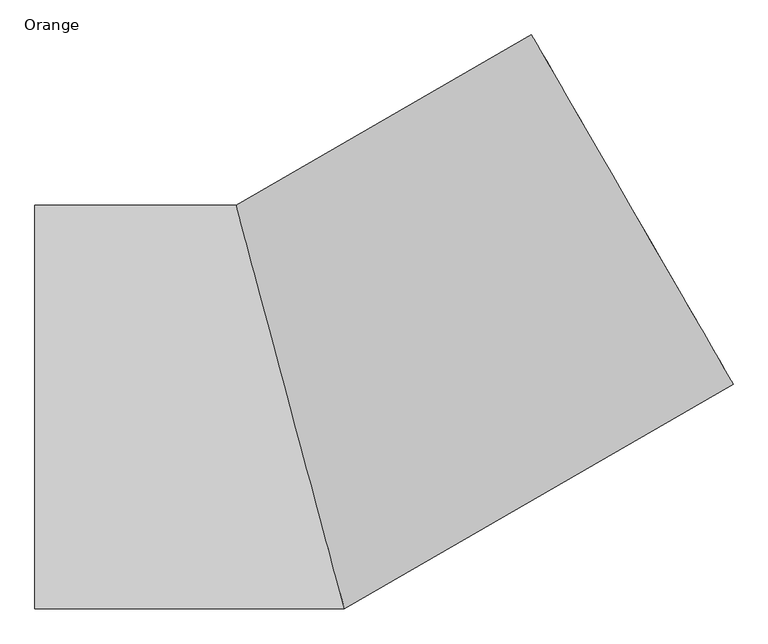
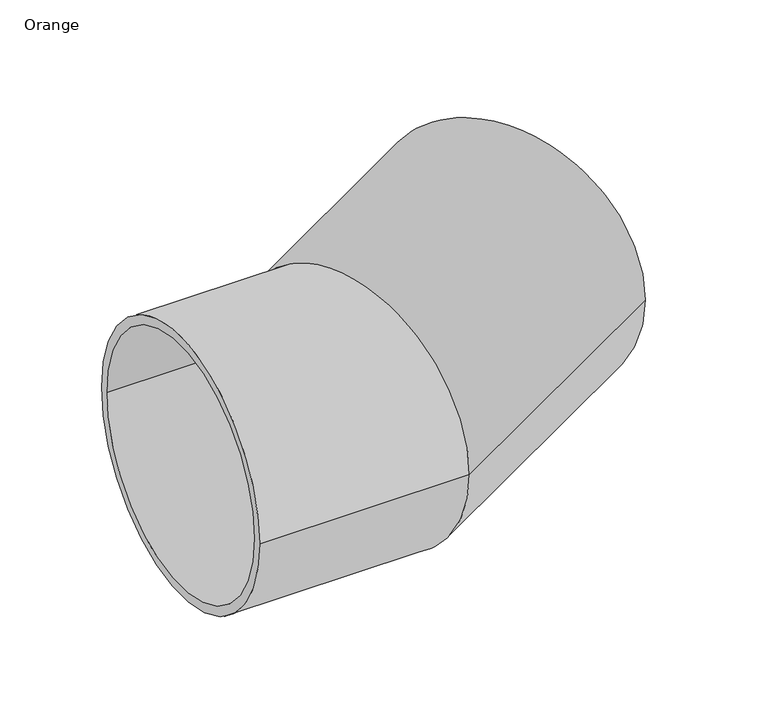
"""IFC4 building model written with IfcOpenShell, lengths in millimetres: pipe fitting geometry, AWADUKT PP SN10 SBend : Orange."""

from ifc_helpers import new_model, si_unit, frame, origin, place, context, project, spatial, polyline, circle_curve, ellipse_curve, source, transform, mapped, element, save
from ifc_brep_helpers import plane_surface, cylinder_surface, revolved_surface, advanced_brep


def orange_f85f7f18(model_context):
    return source(origin(), model_context, "Body", "AdvancedBrep", [
        advanced_brep(
        [(376.8376741, 581.2980022, 0.0), (691.8376741, 35.7019978, 0.0), (387.6376741, 562.5918535, 0.0), (681.0376741, 54.4081465, 0.0), (-78.6162931, 293.4, 0.0), (78.6162931, -293.4, 0.0), (-84.4039956, 315.0, 0.0), (84.4039956, -315.0, 0.0), (-399.0, 315.0, 0.0), (-399.0, -315.0, 0.0), (-399.0, 293.4, 0.0), (-399.0, -293.4, 0.0)],
        [
            (0, 1, circle_curve(frame((534.3376741, 308.5, 0.0), z_axis=(0.866025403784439, 0.49999999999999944, 0.0), x_axis=(0.49999999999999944, -0.866025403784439, 0.0)), 315.0)),
            (1, 0, circle_curve(frame((534.3376741, 308.5, 0.0), z_axis=(0.866025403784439, 0.49999999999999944, 0.0), x_axis=(0.49999999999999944, -0.866025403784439, 0.0)), 315.0)),
            (2, 3, circle_curve(frame((534.3376741, 308.5, 0.0), z_axis=(-0.866025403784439, -0.49999999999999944, 0.0), x_axis=(0.49999999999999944, -0.866025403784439, 0.0)), 293.4)),
            (3, 2, circle_curve(frame((534.3376741, 308.5, 0.0), z_axis=(-0.866025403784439, -0.49999999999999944, 0.0), x_axis=(0.49999999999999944, -0.866025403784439, 0.0)), 293.4)),
            (2, 4),
            (4, 5, ellipse_curve(frame((0.0, 0.0, 0.0), z_axis=(-0.9659258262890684, -0.25881904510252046, 0.0), x_axis=(0.25881904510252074, -0.9659258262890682, 0.0)), 303.7500313, 293.4)),
            (5, 3),
            (5, 4, ellipse_curve(frame((0.0, 0.0, 0.0), z_axis=(-0.9659258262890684, -0.25881904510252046, 0.0), x_axis=(0.25881904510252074, -0.9659258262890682, 0.0)), 303.7500313, 293.4)),
            (0, 6),
            (6, 7, ellipse_curve(frame((0.0, 0.0, 0.0), z_axis=(0.9659258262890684, 0.25881904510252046, 0.0), x_axis=(-0.25881904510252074, 0.9659258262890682, 0.0)), 326.1119968, 315.0)),
            (7, 1),
            (7, 6, ellipse_curve(frame((0.0, 0.0, 0.0), z_axis=(0.9659258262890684, 0.25881904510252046, 0.0), x_axis=(-0.25881904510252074, 0.9659258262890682, 0.0)), 326.1119968, 315.0)),
            (8, 9, circle_curve(frame((-399.0, 0.0, 0.0), z_axis=(-1.0, 0.0, 0.0), x_axis=(0.0, -1.0, 0.0)), 315.0)),
            (9, 8, circle_curve(frame((-399.0, 0.0, 0.0), z_axis=(-1.0, 0.0, 0.0), x_axis=(0.0, -1.0, 0.0)), 315.0)),
            (10, 11, circle_curve(frame((-399.0, 0.0, 0.0), z_axis=(1.0, 0.0, 0.0), x_axis=(0.0, -1.0, 0.0)), 293.4)),
            (11, 10, circle_curve(frame((-399.0, 0.0, 0.0), z_axis=(1.0, 0.0, 0.0), x_axis=(0.0, -1.0, 0.0)), 293.4)),
            (4, 10),
            (11, 5),
            (6, 8),
            (9, 7),
        ],
        [
            plane_surface(frame((534.3376741, 308.5, 0.0), z_axis=(0.866025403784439, 0.49999999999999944, 0.0), x_axis=(0.0, 0.0, 1.0))),
            revolved_surface(polyline([(78.61629305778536, -293.39999998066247, 0.0), (681.0376741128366, 54.408146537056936, 0.0)]), (534.3376741, 308.5, 0.0), (-0.866025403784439, -0.49999999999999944, 0.0)),
            cylinder_surface(frame((534.3376741, 308.5, 0.0), z_axis=(0.866025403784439, 0.49999999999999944, 0.0), x_axis=(0.49999999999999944, -0.866025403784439, 0.0)), 315.0),
            plane_surface(frame((-399.0, 0.0, 0.0), z_axis=(-1.0, 0.0, 0.0), x_axis=(0.0, 0.0, 1.0))),
            revolved_surface(polyline([(-399.0, -293.4, 0.0), (78.6162931, -293.4, 0.0)]), (0.0, 0.0, 0.0), (-1.0, 0.0, 0.0)),
            cylinder_surface(frame((0.0, 0.0, 0.0), z_axis=(1.0, 0.0, 0.0), x_axis=(0.0, -1.0, 0.0)), 315.0),
        ],
        [
            (0, [[1, 2], [3, 4]]),
            (1, [[-3, 5, 6, 7]]),
            (1, [[-4, -7, 8, -5]]),
            (2, [[-1, 9, 10, 11]]),
            (2, [[-2, -11, 12, -9]]),
            (3, [[13, 14], [15, 16]]),
            (4, [[-6, 17, -16, 18]]),
            (4, [[-8, -18, -15, -17]]),
            (5, [[-10, 19, -14, 20]]),
            (5, [[-12, -20, -13, -19]]),
        ],
    ),
    ])


if __name__ == "__main__":
    model = new_model("IFC4")
    model_context = context("Model", 3, world=origin())
    ifc_project = project(units=[si_unit("LENGTHUNIT", "METRE", prefix="MILLI")], contexts=[model_context])
    site = spatial("IfcSite", under=ifc_project)
    building = spatial("IfcBuilding", under=site)
    placement = place(None, origin())
    orange_shape = orange_f85f7f18(model_context)
    element("IfcPipeFitting", 1, ObjectType="AWADUKT PP SN10 SBend : Orange", at=placement, inside=building, context=model_context, shape_type="MappedRepresentation", body=[
        mapped(orange_shape, transform((0.0, 0.0, 0.0), x_axis=(1.0, 0.0, 0.0), y_axis=(0.0, 1.0, 0.0), z_axis=(0.0, 0.0, 1.0))),
    ])
    save(model, "model.ifc")
